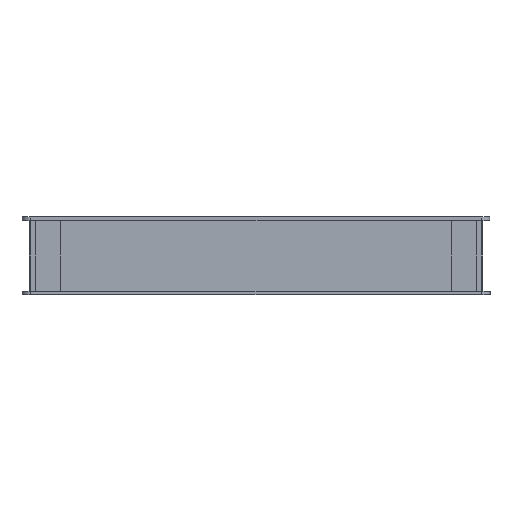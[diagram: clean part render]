
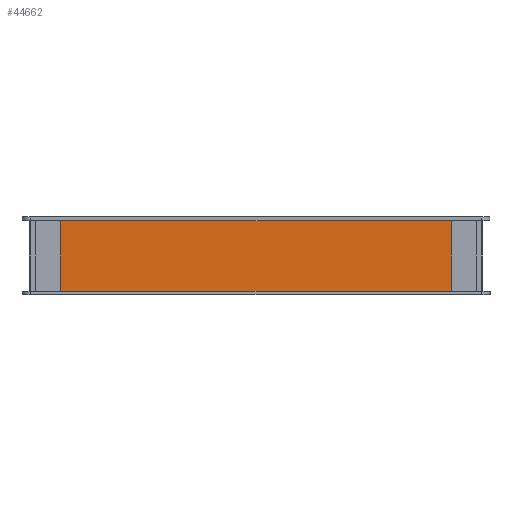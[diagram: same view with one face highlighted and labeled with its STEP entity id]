
A CAD part, left-side view. The second image highlights one B-rep face of the part: STEP entity #44662.
In plain terms, the highlighted planar face has unit normal (-1, 0, 0).
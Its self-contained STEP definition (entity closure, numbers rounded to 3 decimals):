
#1988 = DIRECTION ( 'NONE',  ( -1., 0., 0. ) ) ;
#2624 = ORIENTED_EDGE ( 'NONE', *, *, #43118, .F. ) ;
#2935 = CARTESIAN_POINT ( 'NONE',  ( -434.868, 309.517, 92.5 ) ) ;
#6145 = CARTESIAN_POINT ( 'NONE',  ( -434.868, 309.517, 2.5 ) ) ;
#9759 = EDGE_CURVE ( 'NONE', #30814, #22652, #25436, .T. ) ;
#11750 = VECTOR ( 'NONE', #34243, 1000. ) ;
#14408 = EDGE_LOOP ( 'NONE', ( #17138, #32918, #18493, #2624 ) ) ;
#15769 = CARTESIAN_POINT ( 'NONE',  ( -434.868, 309.517, 92.5 ) ) ;
#16059 = DIRECTION ( 'NONE',  ( 0., 0., 1. ) ) ;
#17100 = VECTOR ( 'NONE', #47542, 1000. ) ;
#17138 = ORIENTED_EDGE ( 'NONE', *, *, #33404, .F. ) ;
#18493 = ORIENTED_EDGE ( 'NONE', *, *, #9759, .F. ) ;
#20023 = CARTESIAN_POINT ( 'NONE',  ( -434.868, -256.483, 92.5 ) ) ;
#22652 = VERTEX_POINT ( 'NONE', #2935 ) ;
#24138 = VECTOR ( 'NONE', #16059, 1000. ) ;
#25436 = LINE ( 'NONE', #15769, #24138 ) ;
#29405 = LINE ( 'NONE', #47251, #11750 ) ;
#30814 = VERTEX_POINT ( 'NONE', #6145 ) ;
#30834 = VERTEX_POINT ( 'NONE', #20023 ) ;
#32918 = ORIENTED_EDGE ( 'NONE', *, *, #38545, .F. ) ;
#33404 = EDGE_CURVE ( 'NONE', #30834, #42145, #42672, .T. ) ;
#33502 = VECTOR ( 'NONE', #33593, 1000. ) ;
#33593 = DIRECTION ( 'NONE',  ( 0., 0., -1. ) ) ;
#33629 = CARTESIAN_POINT ( 'NONE',  ( -434.868, 309.517, 92.5 ) ) ;
#34202 = CARTESIAN_POINT ( 'NONE',  ( -434.868, -256.483, 92.5 ) ) ;
#34243 = DIRECTION ( 'NONE',  ( 0., 1., 0. ) ) ;
#34643 = DIRECTION ( 'NONE',  ( 0., 1., 0. ) ) ;
#37861 = LINE ( 'NONE', #33629, #17100 ) ;
#38545 = EDGE_CURVE ( 'NONE', #22652, #30834, #37861, .T. ) ;
#38558 = CARTESIAN_POINT ( 'NONE',  ( -434.868, 26.517, 47.5 ) ) ;
#39780 = FACE_OUTER_BOUND ( 'NONE', #14408, .T. ) ;
#42145 = VERTEX_POINT ( 'NONE', #49617 ) ;
#42672 = LINE ( 'NONE', #34202, #33502 ) ;
#43088 = PLANE ( 'NONE',  #48253 ) ;
#43118 = EDGE_CURVE ( 'NONE', #42145, #30814, #29405, .T. ) ;
#44662 = ADVANCED_FACE ( 'NONE', ( #39780 ), #43088, .T. ) ;
#47251 = CARTESIAN_POINT ( 'NONE',  ( -434.868, 309.517, 2.5 ) ) ;
#47542 = DIRECTION ( 'NONE',  ( 0., -1., 0. ) ) ;
#48253 = AXIS2_PLACEMENT_3D ( 'NONE', #38558, #1988, #34643 ) ;
#49617 = CARTESIAN_POINT ( 'NONE',  ( -434.868, -256.483, 2.5 ) ) ;
